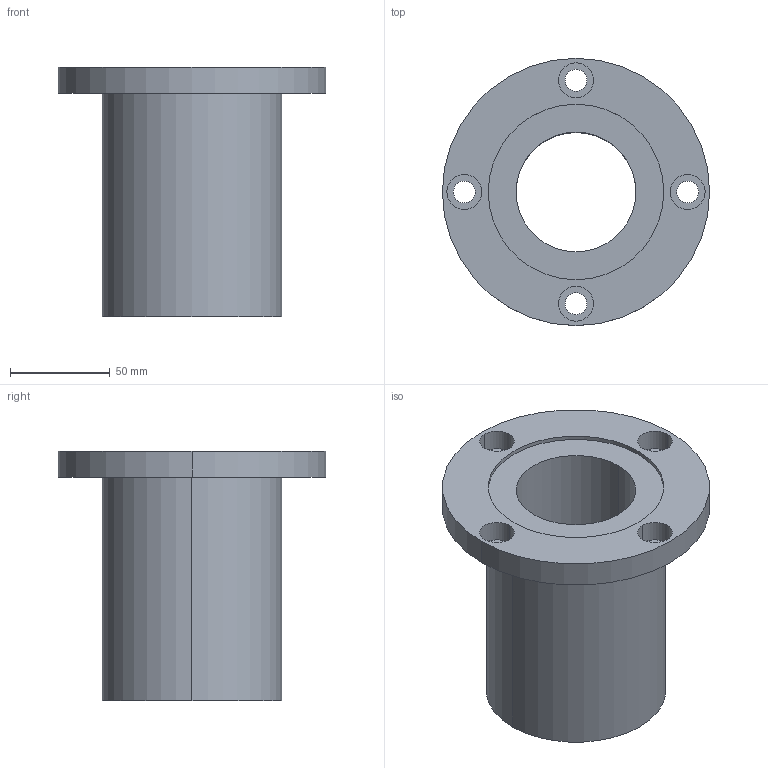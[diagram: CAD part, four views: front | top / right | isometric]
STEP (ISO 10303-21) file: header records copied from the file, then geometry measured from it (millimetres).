
FILE_DESCRIPTION((''),'2;1');
FILE_NAME('C:\Documents and Settings\ｿﾀﾀ蠑ｷ1\ｹﾙﾅﾁ ﾈｭｸ饅\ｺﾎﾇｰﾆﾄﾀﾏ\ﾁｦﾇｰ\LMEF__UU\LMEF60UU.stp','2005-06-15T10:52:11',('ｿﾀﾀ蠑ｷ1'),(''),'Autodesk Inventor 9','Autodesk Inventor 9','');
FILE_SCHEMA(('AUTOMOTIVE_DESIGN { 1 0 10303 214 1 1 1 1 }'));
Length unit declared in the file: millimetre
Products named in the file (1): LMEF__(L)
Bounding box: 134 x 134 x 125 mm (x, y, z)
Volume: 518173.2 mm3; surface area: 85522.6 mm2
Topology: 1 solids, 1 shells, 35 faces, 78 edges, 52 vertices
Faces by surface type: bspline 20, cylinder 10, plane 5
Entity records: 1255 total; most frequent: CARTESIAN_POINT 450, DIRECTION 162, ORIENTED_EDGE 156, EDGE_CURVE 78, AXIS2_PLACEMENT_3D 68, VERTEX_POINT 52, CIRCLE 52, EDGE_LOOP 52
